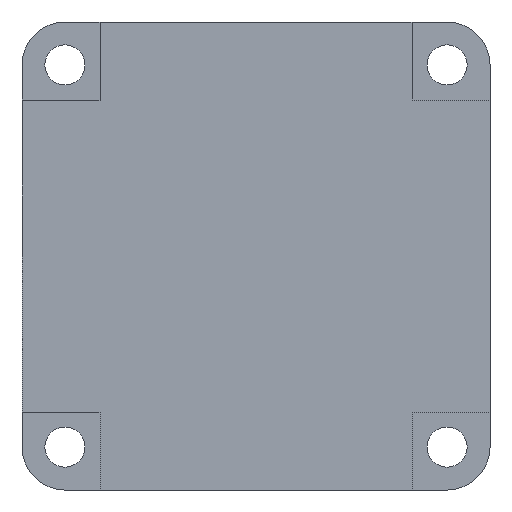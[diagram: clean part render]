
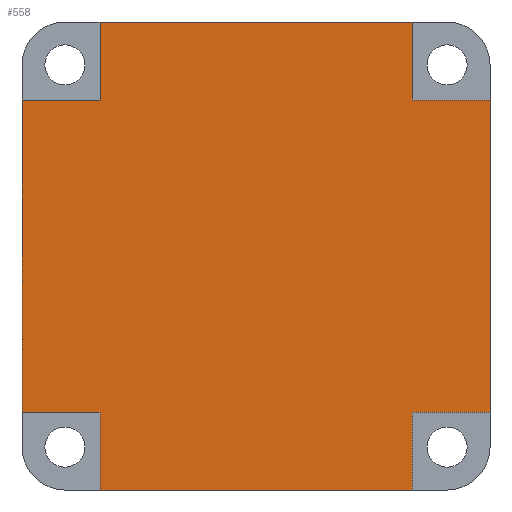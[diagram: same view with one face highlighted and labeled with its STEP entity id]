
A CAD part, front view. The second image highlights one B-rep face of the part: STEP entity #558.
In plain terms, the highlighted planar face has unit normal (0, -1, 0).
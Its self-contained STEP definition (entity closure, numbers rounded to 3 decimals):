
#6 = DIRECTION ( 'NONE',  ( 1., 0., 0. ) ) ;
#19 = DIRECTION ( 'NONE',  ( 0., 0., -1. ) ) ;
#49 = EDGE_CURVE ( 'NONE', #793, #242, #91, .T. ) ;
#64 = CARTESIAN_POINT ( 'NONE',  ( 0., -75., -7. ) ) ;
#83 = EDGE_CURVE ( 'NONE', #1019, #1191, #1035, .T. ) ;
#89 = CARTESIAN_POINT ( 'NONE',  ( 7., -75., -42. ) ) ;
#91 = LINE ( 'NONE', #64, #835 ) ;
#121 = DIRECTION ( 'NONE',  ( 0., 0., 1. ) ) ;
#126 = DIRECTION ( 'NONE',  ( 0., 0., 1. ) ) ;
#138 = DIRECTION ( 'NONE',  ( -1., 0., 0. ) ) ;
#145 = VECTOR ( 'NONE', #611, 1000. ) ;
#158 = VECTOR ( 'NONE', #121, 1000. ) ;
#186 = CARTESIAN_POINT ( 'NONE',  ( 0., -75., -7. ) ) ;
#208 = VECTOR ( 'NONE', #1255, 1000. ) ;
#219 = VECTOR ( 'NONE', #888, 1000. ) ;
#221 = VECTOR ( 'NONE', #19, 1000. ) ;
#233 = CARTESIAN_POINT ( 'NONE',  ( 0., -75., -35. ) ) ;
#242 = VERTEX_POINT ( 'NONE', #1247 ) ;
#243 = CARTESIAN_POINT ( 'NONE',  ( 0., -75., 0. ) ) ;
#246 = DIRECTION ( 'NONE',  ( 0., 0., -1. ) ) ;
#285 = DIRECTION ( 'NONE',  ( 0., 0., -1. ) ) ;
#291 = ORIENTED_EDGE ( 'NONE', *, *, #83, .F. ) ;
#295 = VECTOR ( 'NONE', #1249, 1000. ) ;
#306 = CARTESIAN_POINT ( 'NONE',  ( 35., -75., -42. ) ) ;
#321 = VERTEX_POINT ( 'NONE', #549 ) ;
#325 = ORIENTED_EDGE ( 'NONE', *, *, #378, .F. ) ;
#348 = FACE_OUTER_BOUND ( 'NONE', #530, .T. ) ;
#375 = CARTESIAN_POINT ( 'NONE',  ( 35., -75., -7. ) ) ;
#378 = EDGE_CURVE ( 'NONE', #1229, #800, #690, .T. ) ;
#395 = VECTOR ( 'NONE', #1097, 1000. ) ;
#396 = VERTEX_POINT ( 'NONE', #695 ) ;
#399 = ORIENTED_EDGE ( 'NONE', *, *, #1028, .F. ) ;
#402 = CARTESIAN_POINT ( 'NONE',  ( 42., -75., -35. ) ) ;
#403 = EDGE_CURVE ( 'NONE', #738, #535, #410, .T. ) ;
#408 = CARTESIAN_POINT ( 'NONE',  ( 7., -75., -35. ) ) ;
#410 = LINE ( 'NONE', #696, #145 ) ;
#421 = LINE ( 'NONE', #510, #158 ) ;
#430 = ORIENTED_EDGE ( 'NONE', *, *, #403, .F. ) ;
#435 = ORIENTED_EDGE ( 'NONE', *, *, #1204, .F. ) ;
#436 = LINE ( 'NONE', #89, #208 ) ;
#510 = CARTESIAN_POINT ( 'NONE',  ( 7., -75., 0. ) ) ;
#530 = EDGE_LOOP ( 'NONE', ( #632, #435, #399, #430, #773, #546, #581, #660, #1199, #325, #834, #291 ) ) ;
#535 = VERTEX_POINT ( 'NONE', #822 ) ;
#543 = VECTOR ( 'NONE', #6, 1000. ) ;
#546 = ORIENTED_EDGE ( 'NONE', *, *, #881, .F. ) ;
#549 = CARTESIAN_POINT ( 'NONE',  ( 7., -75., 0. ) ) ;
#558 = ADVANCED_FACE ( 'NONE', ( #348 ), #732, .T. ) ;
#581 = ORIENTED_EDGE ( 'NONE', *, *, #989, .F. ) ;
#611 = DIRECTION ( 'NONE',  ( 1., 0., 0. ) ) ;
#627 = CARTESIAN_POINT ( 'NONE',  ( 0., -75., -42. ) ) ;
#632 = ORIENTED_EDGE ( 'NONE', *, *, #947, .F. ) ;
#643 = LINE ( 'NONE', #996, #395 ) ;
#657 = CARTESIAN_POINT ( 'NONE',  ( 35., -75., 0. ) ) ;
#660 = ORIENTED_EDGE ( 'NONE', *, *, #49, .F. ) ;
#690 = LINE ( 'NONE', #233, #1180 ) ;
#691 = VERTEX_POINT ( 'NONE', #1046 ) ;
#695 = CARTESIAN_POINT ( 'NONE',  ( 42., -75., -35. ) ) ;
#696 = CARTESIAN_POINT ( 'NONE',  ( 42., -75., -7. ) ) ;
#710 = CARTESIAN_POINT ( 'NONE',  ( 0., -75., 0. ) ) ;
#724 = EDGE_CURVE ( 'NONE', #780, #738, #985, .T. ) ;
#725 = VECTOR ( 'NONE', #285, 1000. ) ;
#732 = PLANE ( 'NONE',  #819 ) ;
#738 = VERTEX_POINT ( 'NONE', #375 ) ;
#740 = LINE ( 'NONE', #306, #221 ) ;
#769 = EDGE_CURVE ( 'NONE', #1191, #1229, #436, .T. ) ;
#773 = ORIENTED_EDGE ( 'NONE', *, *, #724, .F. ) ;
#775 = CARTESIAN_POINT ( 'NONE',  ( 0., -75., -35. ) ) ;
#780 = VERTEX_POINT ( 'NONE', #1155 ) ;
#791 = CARTESIAN_POINT ( 'NONE',  ( 7., -75., -42. ) ) ;
#793 = VERTEX_POINT ( 'NONE', #186 ) ;
#799 = LINE ( 'NONE', #402, #219 ) ;
#800 = VERTEX_POINT ( 'NONE', #775 ) ;
#801 = LINE ( 'NONE', #1169, #543 ) ;
#803 = CARTESIAN_POINT ( 'NONE',  ( 35., -75., -42. ) ) ;
#819 = AXIS2_PLACEMENT_3D ( 'NONE', #243, #824, #246 ) ;
#822 = CARTESIAN_POINT ( 'NONE',  ( 42., -75., -7. ) ) ;
#824 = DIRECTION ( 'NONE',  ( 0., -1., 0. ) ) ;
#834 = ORIENTED_EDGE ( 'NONE', *, *, #769, .F. ) ;
#835 = VECTOR ( 'NONE', #1126, 1000. ) ;
#881 = EDGE_CURVE ( 'NONE', #321, #780, #801, .T. ) ;
#888 = DIRECTION ( 'NONE',  ( -1., 0., 0. ) ) ;
#947 = EDGE_CURVE ( 'NONE', #691, #1019, #740, .T. ) ;
#985 = LINE ( 'NONE', #657, #725 ) ;
#989 = EDGE_CURVE ( 'NONE', #242, #321, #421, .T. ) ;
#996 = CARTESIAN_POINT ( 'NONE',  ( 42., -75., 0. ) ) ;
#1019 = VERTEX_POINT ( 'NONE', #803 ) ;
#1028 = EDGE_CURVE ( 'NONE', #535, #396, #643, .T. ) ;
#1035 = LINE ( 'NONE', #627, #295 ) ;
#1046 = CARTESIAN_POINT ( 'NONE',  ( 35., -75., -35. ) ) ;
#1049 = EDGE_CURVE ( 'NONE', #800, #793, #1158, .T. ) ;
#1097 = DIRECTION ( 'NONE',  ( 0., 0., -1. ) ) ;
#1126 = DIRECTION ( 'NONE',  ( 1., 0., 0. ) ) ;
#1129 = VECTOR ( 'NONE', #126, 1000. ) ;
#1155 = CARTESIAN_POINT ( 'NONE',  ( 35., -75., 0. ) ) ;
#1158 = LINE ( 'NONE', #710, #1129 ) ;
#1169 = CARTESIAN_POINT ( 'NONE',  ( 0., -75., 0. ) ) ;
#1180 = VECTOR ( 'NONE', #138, 1000. ) ;
#1191 = VERTEX_POINT ( 'NONE', #791 ) ;
#1199 = ORIENTED_EDGE ( 'NONE', *, *, #1049, .F. ) ;
#1204 = EDGE_CURVE ( 'NONE', #396, #691, #799, .T. ) ;
#1229 = VERTEX_POINT ( 'NONE', #408 ) ;
#1247 = CARTESIAN_POINT ( 'NONE',  ( 7., -75., -7. ) ) ;
#1249 = DIRECTION ( 'NONE',  ( -1., 0., 0. ) ) ;
#1255 = DIRECTION ( 'NONE',  ( 0., 0., 1. ) ) ;
